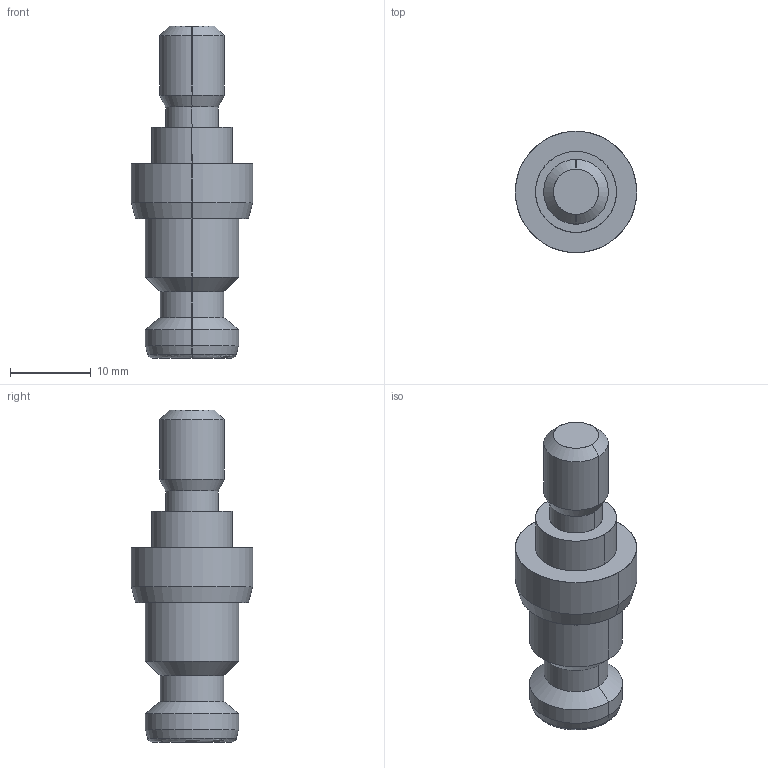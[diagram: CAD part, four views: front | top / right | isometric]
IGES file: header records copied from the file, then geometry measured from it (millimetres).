
Start section: SolidWorks IGES file using analytic representation for surfaces
Global section: file name: X:\14_SW2023(ver2023)\09_2025-03新製品(WHS)\OTC\＠データ\qlpdw85-m8l\QLPDW85-M8L.IGS; native system: SolidWorks 2023; preprocessor: SolidWorks 2023; author: yozawa; date: 241108.152319; units: millimetre
Bounding box: 15 x 15 x 41 mm (x, y, z)
Surface area: 1729 mm2 (no closed solid volume)
Topology: 0 solids, 0 shells, 40 faces, 404 edges, 404 vertices
Faces by surface type: revolution 26, bspline 14
